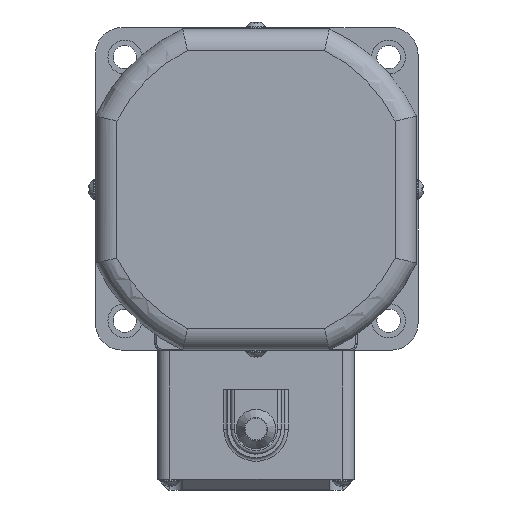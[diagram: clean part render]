
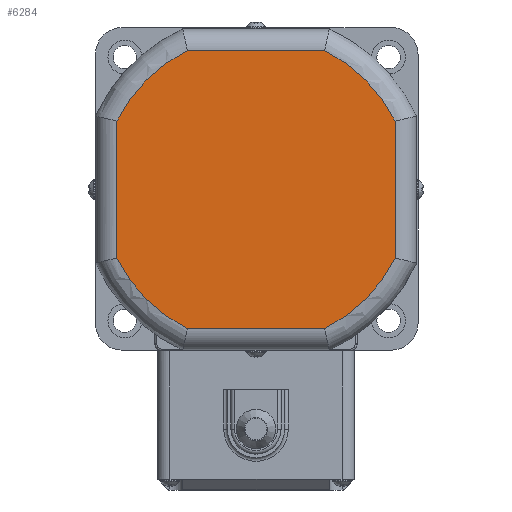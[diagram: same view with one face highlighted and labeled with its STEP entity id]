
A CAD part, left-side view. The second image highlights one B-rep face of the part: STEP entity #6284.
In plain terms, the highlighted planar face has unit normal (-1, 0, 0).
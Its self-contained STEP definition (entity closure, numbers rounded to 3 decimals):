
#5911=CARTESIAN_POINT('',(-17.8,-19.108,-38.8));
#5912=VERTEX_POINT('',#5911);
#5939=CARTESIAN_POINT('',(-17.8,-38.8,-19.108));
#5940=VERTEX_POINT('',#5939);
#5958=CARTESIAN_POINT('',(-17.8,0.,0.));
#5959=DIRECTION('',(1.0,0.,0.));
#5960=DIRECTION('',(0.,-0.707,-0.707));
#5961=AXIS2_PLACEMENT_3D('',#5958,#5959,#5960);
#5962=CIRCLE('',#5961,43.25);
#5963=EDGE_CURVE('',#5940,#5912,#5962,.T.);
#5975=CARTESIAN_POINT('',(-17.8,-38.8,19.108));
#5976=VERTEX_POINT('',#5975);
#5994=CARTESIAN_POINT('',(-17.8,-38.8,19.108));
#5995=DIRECTION('',(0.0,0.0,-1.0));
#5996=VECTOR('',#5995,38.216);
#5997=LINE('',#5994,#5996);
#5998=EDGE_CURVE('',#5976,#5940,#5997,.T.);
#6017=CARTESIAN_POINT('',(-17.8,19.108,-38.8));
#6018=VERTEX_POINT('',#6017);
#6043=CARTESIAN_POINT('',(-17.8,-19.108,-38.8));
#6044=DIRECTION('',(0.0,1.0,0.0));
#6045=VECTOR('',#6044,38.216);
#6046=LINE('',#6043,#6045);
#6047=EDGE_CURVE('',#5912,#6018,#6046,.T.);
#6057=CARTESIAN_POINT('',(-17.8,-19.108,38.8));
#6058=VERTEX_POINT('',#6057);
#6076=CARTESIAN_POINT('',(-17.8,0.,0.));
#6077=DIRECTION('',(1.0,0.,0.));
#6078=DIRECTION('',(0.,-0.707,0.707));
#6079=AXIS2_PLACEMENT_3D('',#6076,#6077,#6078);
#6080=CIRCLE('',#6079,43.25);
#6081=EDGE_CURVE('',#6058,#5976,#6080,.T.);
#6099=CARTESIAN_POINT('',(-17.8,38.8,-19.108));
#6100=VERTEX_POINT('',#6099);
#6126=CARTESIAN_POINT('',(-17.8,0.,0.));
#6127=DIRECTION('',(1.,0.,0.));
#6128=DIRECTION('',(0.,0.707,-0.707));
#6129=AXIS2_PLACEMENT_3D('',#6126,#6127,#6128);
#6130=CIRCLE('',#6129,43.25);
#6131=EDGE_CURVE('',#6018,#6100,#6130,.T.);
#6141=CARTESIAN_POINT('',(-17.8,19.108,38.8));
#6142=VERTEX_POINT('',#6141);
#6160=CARTESIAN_POINT('',(-17.8,19.108,38.8));
#6161=DIRECTION('',(0.0,-1.0,0.0));
#6162=VECTOR('',#6161,38.216);
#6163=LINE('',#6160,#6162);
#6164=EDGE_CURVE('',#6142,#6058,#6163,.T.);
#6176=CARTESIAN_POINT('',(-17.8,38.8,19.108));
#6177=VERTEX_POINT('',#6176);
#6197=CARTESIAN_POINT('',(-17.8,38.8,-19.108));
#6198=DIRECTION('',(0.0,0.0,1.0));
#6199=VECTOR('',#6198,38.216);
#6200=LINE('',#6197,#6199);
#6201=EDGE_CURVE('',#6100,#6177,#6200,.T.);
#6212=CARTESIAN_POINT('',(-17.8,0.,0.));
#6213=DIRECTION('',(1.0,0.,0.));
#6214=DIRECTION('',(0.,0.707,0.707));
#6215=AXIS2_PLACEMENT_3D('',#6212,#6213,#6214);
#6216=CIRCLE('',#6215,43.25);
#6217=EDGE_CURVE('',#6177,#6142,#6216,.T.);
#6269=CARTESIAN_POINT('',(-17.8,0.,0.));
#6270=DIRECTION('',(1.0,0.0,0.0));
#6271=DIRECTION('',(0.0,0.0,-1.0));
#6272=AXIS2_PLACEMENT_3D('',#6269,#6270,#6271);
#6273=PLANE('',#6272);
#6274=ORIENTED_EDGE('',*,*,#6201,.F.);
#6275=ORIENTED_EDGE('',*,*,#6131,.F.);
#6276=ORIENTED_EDGE('',*,*,#6047,.F.);
#6277=ORIENTED_EDGE('',*,*,#5963,.F.);
#6278=ORIENTED_EDGE('',*,*,#5998,.F.);
#6279=ORIENTED_EDGE('',*,*,#6081,.F.);
#6280=ORIENTED_EDGE('',*,*,#6164,.F.);
#6281=ORIENTED_EDGE('',*,*,#6217,.F.);
#6282=EDGE_LOOP('',(#6274,#6275,#6276,#6277,#6278,#6279,#6280,#6281));
#6283=FACE_OUTER_BOUND('',#6282,.T.);
#6284=ADVANCED_FACE('',(#6283),#6273,.F.);
